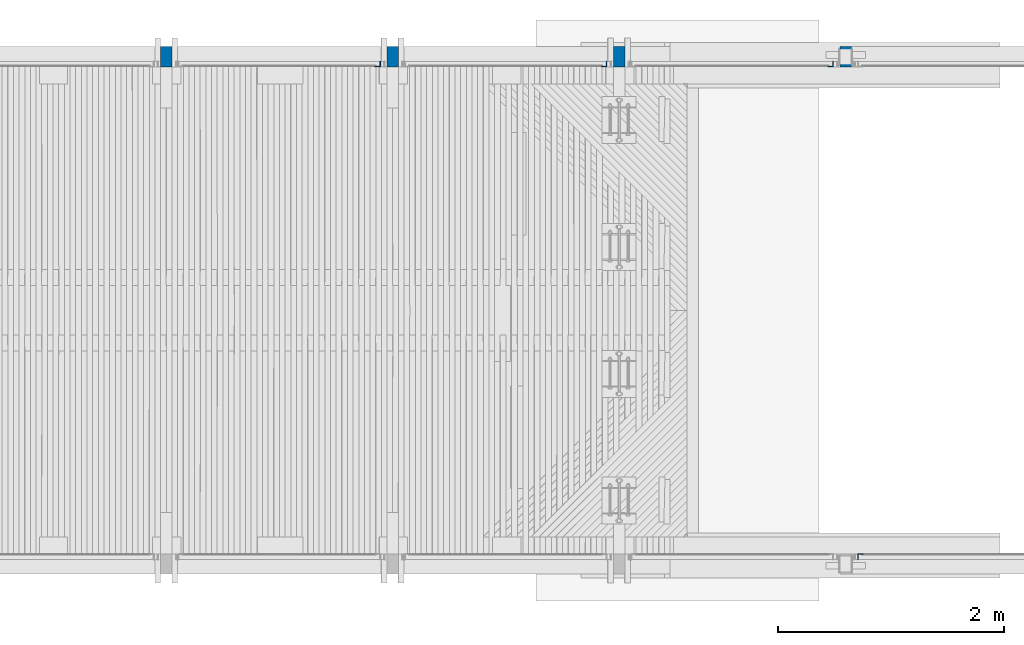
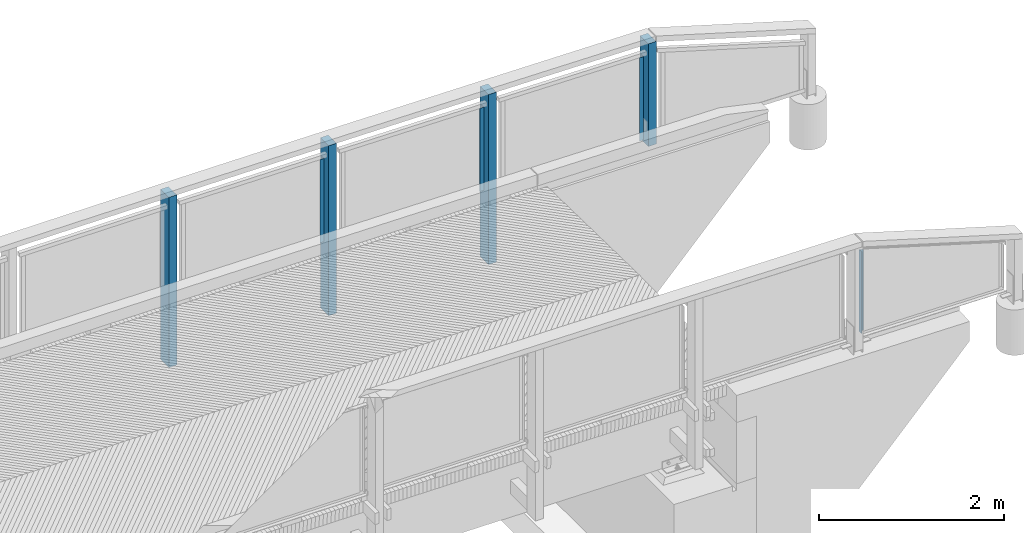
# One storey, part 11 of 65: 8 columns.
"""IFC2X3 building model written with IfcOpenShell, lengths in millimetres."""

from ifc_helpers import new_model, si_unit, frame, origin_with_axes, place, context, subcontext, project, spatial, faceted_brep, material, type_object, element, save


model = new_model("IFC2X3")

# Units and contexts
model_context = context("Model", 3, precision=1e-05, world=origin_with_axes())
body_context = subcontext(model_context, "Body", "Model", "MODEL_VIEW")
ifc_project = project(units=[si_unit("LENGTHUNIT", "METRE", prefix="MILLI"), si_unit("AREAUNIT", "SQUARE_METRE"), si_unit("VOLUMEUNIT", "CUBIC_METRE"), si_unit("MASSUNIT", "GRAM", prefix="KILO"), si_unit("TIMEUNIT", "SECOND"), si_unit("PLANEANGLEUNIT", "RADIAN"), si_unit("SOLIDANGLEUNIT", "STERADIAN"), si_unit("THERMODYNAMICTEMPERATUREUNIT", "DEGREE_CELSIUS"), si_unit("LUMINOUSINTENSITYUNIT", "LUMEN")], contexts=[model_context])

# Site, building, storey
site_placement = place(None, origin_with_axes())
site = spatial("IfcSite", under=ifc_project, at=site_placement, Name="Undefined", CompositionType="ELEMENT")
building_placement = place(site_placement, origin_with_axes())
building = spatial("IfcBuilding", under=site, at=building_placement, Name="Undefined", CompositionType="ELEMENT")
storey_placement = place(building_placement, origin_with_axes())
storey = spatial("IfcBuildingStorey", under=building, at=storey_placement, Name="Undefined", CompositionType="ELEMENT", Elevation=0.0)

# Columns
ifc_material_1 = material(Name="TIMBER/Timber_Undefined")
column_type_1 = type_object("IfcColumnType", Name="180*100", PredefinedType="NOTDEFINED")
column_1_placement = place(storey_placement, frame((17999.9999992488, 24604.9879080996, 3128.37999999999), z_axis=(0.0, -1.0, 0.0), x_axis=(0.0, 0.0, 1.0)))
element("IfcColumn", 1, at=column_1_placement, inside=storey, type_object=column_type_1, material=ifc_material_1, Name="KAIDEPYLVÄS", ObjectType="180*100", context=body_context, shape_type="Brep", body=[
    faceted_brep([(-5.71000000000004, 50.0, -90.0), (-5.71000000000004, 50.0, 90.0), (1352.87649222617, 50.0, 90.0), (1352.87649222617, 50.0, -90.0), (-5.71000000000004, -50.0, 90.0), (1351.21940355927, -50.0, 90.0), (-5.71000000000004, -50.0, -90.0), (1351.21940355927, -50.0, -90.0)], [[[0, 1, 2, 3]], [[1, 4, 5, 2]], [[4, 6, 7, 5]], [[6, 0, 3, 7]], [[5, 7, 3, 2]], [[6, 4, 1, 0]]]),
])
for number, where, z_axis, x_axis in (
    (2, (16000.0000678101, 24604.9879080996, 2260.26004297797), (0.0, -1.0, 0.0), (0.0, 0.0, 1.0)),
    (3, (14000.0000678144, 24604.9879080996, 2283.46176690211), (0.0, -1.0, 0.0), (0.0, 0.0, 1.0)),
    (4, (12000.0000678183, 24604.9879080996, 2300.03388065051), (0.0, -1.0, 0.0), (0.0, 0.0, 1.0)),
):
    element("IfcColumn", number, at=place(storey_placement, frame(where, z_axis=z_axis, x_axis=x_axis)), inside=storey, type_object=column_type_1, material=ifc_material_1, Name="KAIDEPYLVÄS", ObjectType="180*100", context=body_context, shape_type="Brep", body=[
        faceted_brep([(0.0, 50.0, -90.0), (0.0, 50.0, 90.0), (2250.0, 50.0, 90.0), (2250.0, 50.0, -90.0), (0.0, -50.0, 90.0), (2250.0, -50.0, 90.0), (0.0, -50.0, -90.0), (2250.0, -50.0, -90.0)], [[[0, 1, 2, 3]], [[1, 4, 5, 2]], [[4, 6, 7, 5]], [[6, 0, 3, 7]], [[5, 7, 3, 2]], [[6, 4, 1, 0]]]),
    ])
ifc_material_2 = material(Name="STEEL/S235JR")
column_type_2 = type_object("IfcColumnType", Name="L50*5", PredefinedType="NOTDEFINED")
column_2_placement = place(storey_placement, frame((17867.5024948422, 24539.9900000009, 3235.14086904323), z_axis=(0.0, 1.0, 0.0), x_axis=(0.0, 0.0, 1.0)))
element("IfcColumn", 5, at=column_2_placement, inside=storey, type_object=column_type_2, material=ifc_material_2, Name="BEAM", ObjectType="L50*5", context=body_context, shape_type="Brep", body=[
    faceted_brep([(0.0, 25.0, -25.0), (0.0, 25.0, 25.0), (1099.98982283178, 25.0, 25.0), (1099.98982283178, 25.0, -25.0), (0.0, 20.0, 25.0), (1099.98982283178, 20.0, 25.0), (0.0, 20.0, -20.0), (1099.98982283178, 20.0, -20.0), (0.0, -25.0, -20.0), (1099.98982283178, -25.0, -20.0), (0.0, -25.0, -25.0), (1099.98982283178, -25.0, -25.0)], [[[0, 1, 2, 3]], [[1, 4, 5, 2]], [[4, 6, 7, 5]], [[6, 8, 9, 7]], [[8, 10, 11, 9]], [[10, 0, 3, 11]], [[5, 7, 9, 11, 3, 2]], [[10, 8, 6, 4, 1, 0]]]),
])
column_3_placement = place(storey_placement, frame((15867.5024948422, 24539.9900000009, 3264.62090411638), z_axis=(0.0, 1.0, 0.0), x_axis=(0.0, 0.0, 1.0)))
element("IfcColumn", 6, at=column_3_placement, inside=storey, type_object=column_type_2, material=ifc_material_2, Name="BEAM", ObjectType="L50*5", context=body_context, shape_type="Brep", body=[
    faceted_brep([(0.0, 25.0, -25.0), (0.0, 25.0, 25.0), (1099.99156352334, 25.0, 25.0), (1099.99156352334, 25.0, -25.0), (0.0, 20.0, 25.0), (1099.99156352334, 20.0, 25.0), (0.0, 20.0, -20.0), (1099.99156352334, 20.0, -20.0), (0.0, -25.0, -20.0), (1099.99156352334, -25.0, -20.0), (0.0, -25.0, -25.0), (1099.99156352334, -25.0, -25.0)], [[[0, 1, 2, 3]], [[1, 4, 5, 2]], [[4, 6, 7, 5]], [[6, 8, 9, 7]], [[8, 10, 11, 9]], [[10, 0, 3, 11]], [[5, 7, 9, 11, 3, 2]], [[10, 8, 6, 4, 1, 0]]]),
])
column_4_placement = place(storey_placement, frame((13867.5024948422, 24539.9900000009, 3287.46595855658), z_axis=(0.0, 1.0, 0.0), x_axis=(0.0, 0.0, 1.0)))
element("IfcColumn", 7, at=column_4_placement, inside=storey, type_object=column_type_2, material=ifc_material_2, Name="BEAM", ObjectType="L50*5", context=body_context, shape_type="Brep", body=[
    faceted_brep([(0.0, 25.0, -25.0), (0.0, 25.0, 25.0), (1099.9980148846, 25.0, 25.0), (1099.9980148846, 25.0, -25.0), (0.0, 20.0, 25.0), (1099.9980148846, 20.0, 25.0), (0.0, 20.0, -20.0), (1099.9980148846, 20.0, -20.0), (0.0, -25.0, -20.0), (1099.9980148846, -25.0, -20.0), (0.0, -25.0, -25.0), (1099.9980148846, -25.0, -25.0)], [[[0, 1, 2, 3]], [[1, 4, 5, 2]], [[4, 6, 7, 5]], [[6, 8, 9, 7]], [[8, 10, 11, 9]], [[10, 0, 3, 11]], [[5, 7, 9, 11, 3, 2]], [[10, 8, 6, 4, 1, 0]]]),
])
column_5_placement = place(storey_placement, frame((18132.4988327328, 20190.01, 3231.93346215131), z_axis=(0.0, -1.0, 0.0), x_axis=(0.0, 0.0, 1.0)))
element("IfcColumn", 8, at=column_5_placement, inside=storey, type_object=column_type_2, material=ifc_material_2, Name="BEAM", ObjectType="L50*5", context=body_context, shape_type="Brep", body=[
    faceted_brep([(0.0, 25.0, -25.0), (0.0, 25.0, 25.0), (1081.35835382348, 25.0, 25.0), (1081.35835382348, 25.0, -25.0), (0.0, 20.0, 25.0), (1079.86576768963, 20.0, 25.0), (0.0, 20.0, -20.0), (1079.86576768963, 20.0, -20.0), (0.0, -25.0, -20.0), (1066.43249248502, -25.0, -20.0), (0.0, -25.0, -25.0), (1066.43249248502, -25.0, -25.0)], [[[0, 1, 2, 3]], [[1, 4, 5, 2]], [[4, 6, 7, 5]], [[6, 8, 9, 7]], [[8, 10, 11, 9]], [[10, 0, 3, 11]], [[5, 7, 9, 11, 3, 2]], [[10, 8, 6, 4, 1, 0]]]),
])

save(model, "model.ifc")
